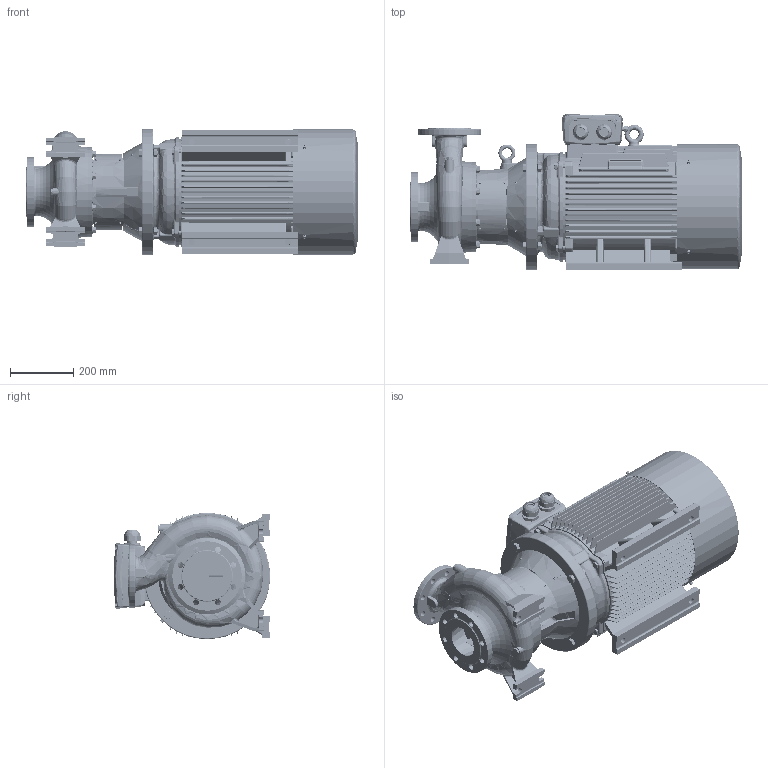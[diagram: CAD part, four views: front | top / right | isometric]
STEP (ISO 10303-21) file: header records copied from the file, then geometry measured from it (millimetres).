
FILE_DESCRIPTION (( 'STEP AP203' ), '1' );
FILE_NAME ('CNG 80-200A-B.STEP', '2022-07-29T09:02:54', ( '' ), ( '' ), 'SwSTEP 2.0', 'SolidWorks 2021', '' );
FILE_SCHEMA (( 'CONFIG_CONTROL_DESIGN' ));
Products named in the file (1): CNG 80-200A-B
Bounding box: 1052 x 495.4 x 400 mm (x, y, z)
Surface area: 4193570.1 mm2 (no closed solid volume)
Topology: 0 solids, 14 shells, 10884 faces, 29514 edges, 18762 vertices
Faces by surface type: plane 4106, cylinder 3498, bspline 2674, cone 491, torus 91, sphere 24
Entity records: 521436 total; most frequent: CARTESIAN_POINT 269862, ORIENTED_EDGE 58866, DIRECTION 44301, EDGE_CURVE 29468, VERTEX_POINT 18762, AXIS2_PLACEMENT_3D 15583, LINE 13135, VECTOR 13135
